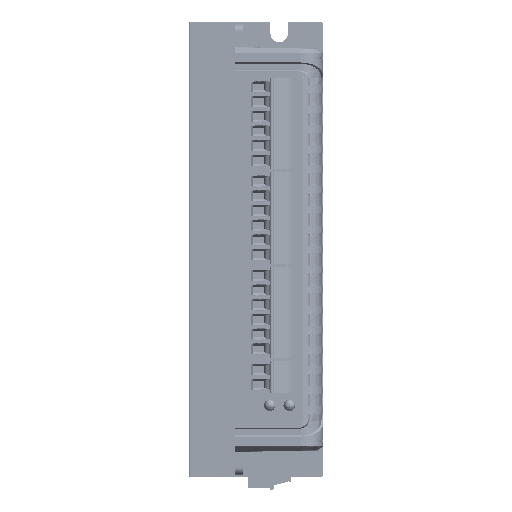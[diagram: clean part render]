
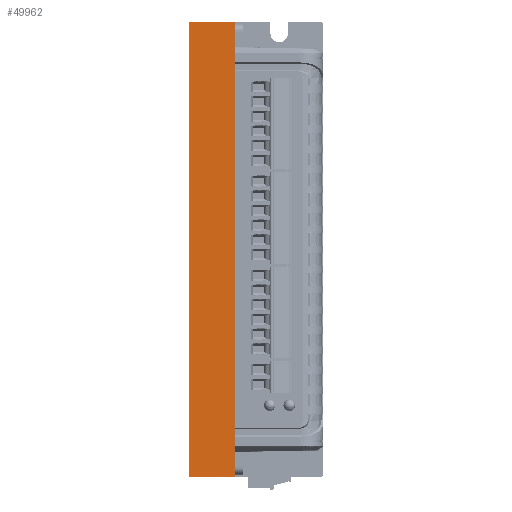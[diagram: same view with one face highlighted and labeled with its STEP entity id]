
A CAD part, front view. The second image highlights one B-rep face of the part: STEP entity #49962.
In plain terms, the highlighted planar face has unit normal (0, -1, 0).
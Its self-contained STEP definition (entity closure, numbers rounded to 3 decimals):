
#49962=ADVANCED_FACE('',(#113143),#113145,.F.);
#113143=FACE_BOUND('',#113144,.T.);
#113144=EDGE_LOOP('',(#170244,#170245,#170246,#170247));
#113145=PLANE('',#113146);
#113146=AXIS2_PLACEMENT_3D('',#113147,#113148,#113149);
#113147=CARTESIAN_POINT('',(-17.,-37.75,118.));
#113148=DIRECTION('',(0.,1.,0.));
#113149=DIRECTION('',(0.,0.,1.));
#170244=ORIENTED_EDGE('',*,*,#199477,.T.);
#170245=ORIENTED_EDGE('',*,*,#199478,.F.);
#170246=ORIENTED_EDGE('',*,*,#199279,.F.);
#170247=ORIENTED_EDGE('',*,*,#199476,.T.);
#199279=EDGE_CURVE('',#232342,#232344,#232345,.T.);
#199476=EDGE_CURVE('',#232342,#232591,#232593,.T.);
#199477=EDGE_CURVE('',#232591,#232594,#232595,.T.);
#199478=EDGE_CURVE('',#232344,#232594,#232596,.T.);
#232342=VERTEX_POINT('',#312045);
#232344=VERTEX_POINT('',#312050);
#232345=LINE('',#312051,#312052);
#232591=VERTEX_POINT('',#312711);
#232593=LINE('',#312716,#312717);
#232594=VERTEX_POINT('',#312719);
#232595=LINE('',#312720,#312721);
#232596=LINE('',#312723,#312724);
#312045=CARTESIAN_POINT('',(-17.,-37.75,118.));
#312050=CARTESIAN_POINT('',(-5.5,-37.75,118.));
#312051=CARTESIAN_POINT('',(-17.,-37.75,118.));
#312052=VECTOR('',#312053,1.);
#312053=DIRECTION('',(1.,0.,0.));
#312711=CARTESIAN_POINT('',(-17.,-37.75,0.));
#312716=CARTESIAN_POINT('',(-17.,-37.75,118.));
#312717=VECTOR('',#312718,1.);
#312718=DIRECTION('',(0.,0.,-1.));
#312719=CARTESIAN_POINT('',(-5.5,-37.75,0.));
#312720=CARTESIAN_POINT('',(-17.,-37.75,0.));
#312721=VECTOR('',#312722,1.);
#312722=DIRECTION('',(1.,0.,0.));
#312723=CARTESIAN_POINT('',(-5.5,-37.75,118.));
#312724=VECTOR('',#312725,1.);
#312725=DIRECTION('',(0.,0.,-1.));
